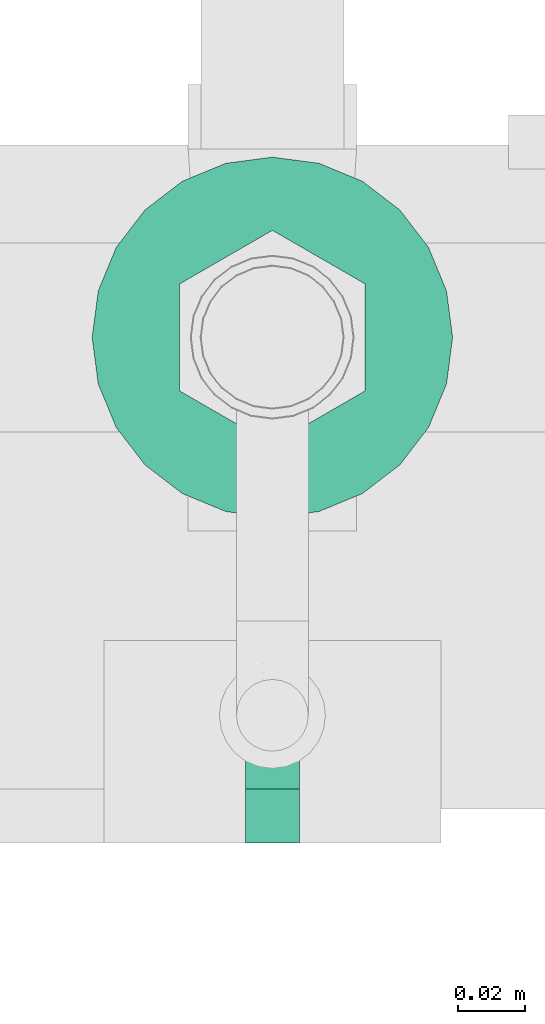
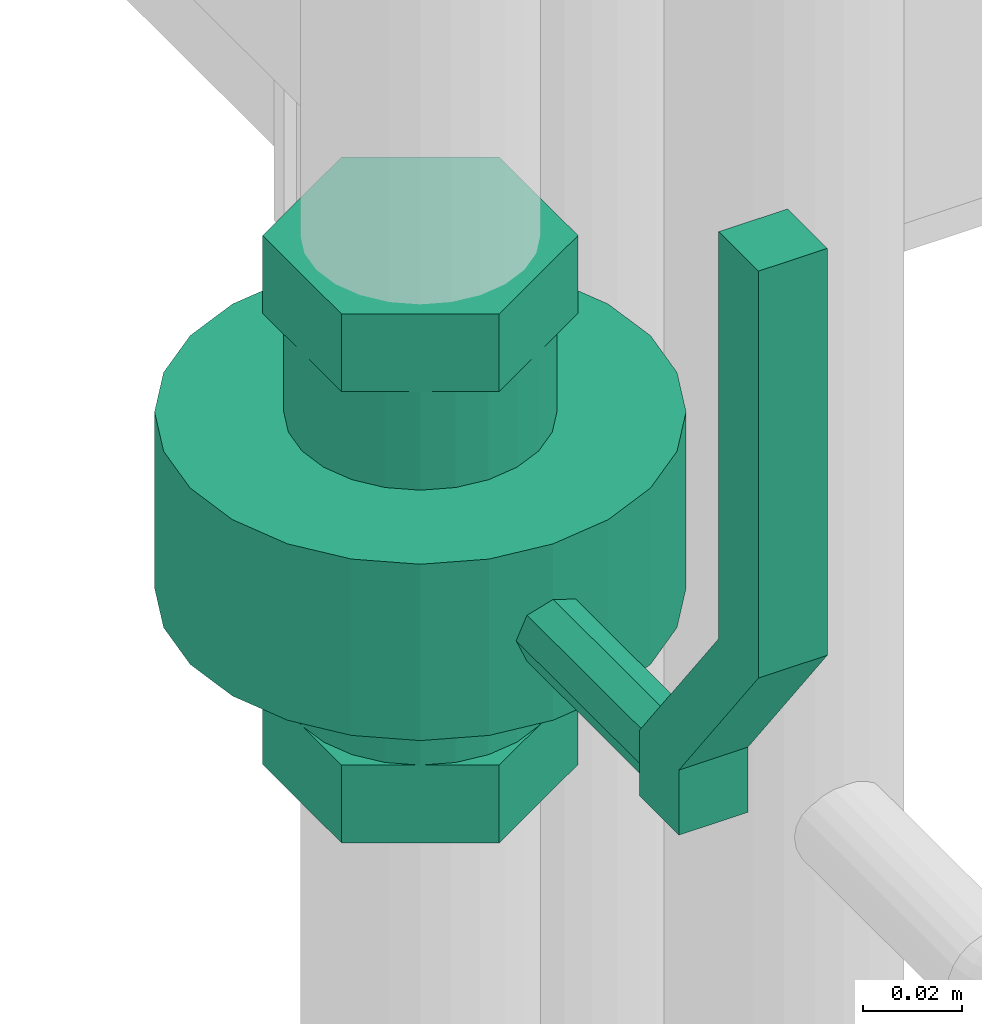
# One storey, part 255 of 374: 1 flow controller.
"""IFC2X3 building model written with IfcOpenShell, lengths in metres."""

from ifc_helpers import new_model, si_unit, direction, origin, place, context, subcontext, project, spatial, open_shell, surface_model, source, transform, mapped, element, save


model = new_model("IFC2X3")

# Units and contexts
model_context = context("Model", 3, precision=1e-05, world=origin(), true_north=direction((-0.4480736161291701, 0.8939966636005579)))
body_context = subcontext(model_context, "Body", "Model", "MODEL_VIEW")
ifc_project = project(units=[si_unit("LENGTHUNIT", "METRE"), si_unit("AREAUNIT", "SQUARE_METRE"), si_unit("VOLUMEUNIT", "CUBIC_METRE"), si_unit("PLANEANGLEUNIT", "RADIAN"), si_unit("THERMODYNAMICTEMPERATUREUNIT", "KELVIN"), si_unit("MASSUNIT", "GRAM", prefix="KILO"), si_unit("TIMEUNIT", "SECOND")], contexts=[model_context])

# Site, building, storey
site_placement = place(None, origin())
site = spatial("IfcSite", under=ifc_project, at=site_placement, Name="Site 1", CompositionType="ELEMENT")
building_placement = place(site_placement, origin())
building = spatial("IfcBuilding", under=site, at=building_placement, Name="Undefined", CompositionType="ELEMENT")
storey_placement = place(building_placement, origin())
storey = spatial("IfcBuildingStorey", under=building, at=storey_placement, Name="Rez de chauss\x8ee", CompositionType="ELEMENT", Elevation=0.0)

# Flow controller
shared_shape = source(origin(), body_context, "Body", "SurfaceModel", [
    surface_model("IfcFaceBasedSurfaceModel", [(0.0, 0.0, 0.0), (0.016000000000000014, 0.0, 0.0), (0.016000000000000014, 0.015999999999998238, 0.0), (0.0, 0.015999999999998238, 0.0), (0.016000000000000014, 0.0, 0.016000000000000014), (0.016000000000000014, 0.015999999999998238, 0.016000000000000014), (0.0, 0.0, 0.016000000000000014), (0.0, 0.015999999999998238, 0.016000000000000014), (-0.04200000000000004, 0.0, 0.04800000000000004), (-0.04200000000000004, 0.015999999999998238, 0.04800000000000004), (-0.14200000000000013, 0.0, 0.04800000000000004), (-0.14200000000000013, 0.015999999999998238, 0.04800000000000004), (-0.14200000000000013, 0.0, 0.03200000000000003), (-0.14200000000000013, 0.015999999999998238, 0.03200000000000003), (-0.04200000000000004, 0.0, 0.03200000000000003), (-0.04200000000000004, 0.015999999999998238, 0.03200000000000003), (0.07299999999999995, 0.03549999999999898, -0.11787713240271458), (0.07299999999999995, 0.03549999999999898, -0.08612286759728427), (0.05390000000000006, 0.03549999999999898, -0.08612286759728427), (0.05390000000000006, 0.03549999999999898, -0.11787713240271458), (0.07299999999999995, 0.008000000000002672, -0.13375426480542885), (0.05390000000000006, 0.008000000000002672, -0.13375426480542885), (0.07299999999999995, -0.01950000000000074, -0.11787713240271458), (0.05390000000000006, -0.01950000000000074, -0.11787713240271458), (0.07299999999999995, -0.01950000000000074, -0.08612286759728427), (0.05390000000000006, -0.01950000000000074, -0.08612286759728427), (0.07299999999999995, 0.008000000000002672, -0.07024573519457), (0.05390000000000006, 0.008000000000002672, -0.07024573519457), (0.05390000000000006, -0.01950000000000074, -0.10200000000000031), (0.05390000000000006, -0.01856296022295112, -0.09488247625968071), (0.02966666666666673, -0.01856296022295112, -0.09488247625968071), (0.02966666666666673, -0.01950000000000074, -0.10200000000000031), (0.05390000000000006, -0.01581569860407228, -0.08825000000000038), (0.02966666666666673, -0.01581569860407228, -0.08825000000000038), (0.05390000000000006, -0.011445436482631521, -0.08255456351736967), (0.02966666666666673, -0.011445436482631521, -0.08255456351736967), (0.05390000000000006, -0.005749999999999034, -0.07818430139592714), (0.02966666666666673, -0.005749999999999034, -0.07818430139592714), (0.05390000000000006, 0.0008824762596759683, -0.07543703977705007), (0.02966666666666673, 0.0008824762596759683, -0.07543703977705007), (0.05390000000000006, 0.008000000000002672, -0.07449999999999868), (0.02966666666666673, 0.008000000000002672, -0.07449999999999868), (0.05390000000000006, 0.01511752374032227, -0.07543703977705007), (0.02966666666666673, 0.01511752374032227, -0.07543703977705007), (0.05390000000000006, 0.021750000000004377, -0.07818430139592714), (0.02966666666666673, 0.021750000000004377, -0.07818430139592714), (0.05390000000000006, 0.02744543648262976, -0.08255456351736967), (0.02966666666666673, 0.02744543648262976, -0.08255456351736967), (0.05390000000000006, 0.03181569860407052, -0.08825000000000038), (0.02966666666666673, 0.03181569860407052, -0.08825000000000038), (0.05390000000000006, 0.03456296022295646, -0.09488247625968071), (0.02966666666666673, 0.03456296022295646, -0.09488247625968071), (0.05390000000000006, 0.03549999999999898, -0.10200000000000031), (0.02966666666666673, 0.03549999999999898, -0.10200000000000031), (0.05390000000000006, 0.03456296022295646, -0.10911752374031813), (0.02966666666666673, 0.03456296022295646, -0.10911752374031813), (0.05390000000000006, 0.03181569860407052, -0.11575000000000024), (0.02966666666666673, 0.03181569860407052, -0.11575000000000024), (0.05390000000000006, 0.02744543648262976, -0.12144543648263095), (0.02966666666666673, 0.02744543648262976, -0.12144543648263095), (0.05390000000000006, 0.021750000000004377, -0.1258156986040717), (0.02966666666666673, 0.021750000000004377, -0.1258156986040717), (0.05390000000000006, 0.01511752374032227, -0.12856296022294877), (0.02966666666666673, 0.01511752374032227, -0.12856296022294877), (0.05390000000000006, 0.008000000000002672, -0.12950000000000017), (0.02966666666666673, 0.008000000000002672, -0.12950000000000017), (0.05390000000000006, 0.0008824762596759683, -0.12856296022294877), (0.02966666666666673, 0.0008824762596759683, -0.12856296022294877), (0.05390000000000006, -0.005749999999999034, -0.1258156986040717), (0.02966666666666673, -0.005749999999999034, -0.1258156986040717), (0.05390000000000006, -0.011445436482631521, -0.12144543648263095), (0.02966666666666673, -0.011445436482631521, -0.12144543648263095), (0.05390000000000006, -0.01581569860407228, -0.11575000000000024), (0.02966666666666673, -0.01581569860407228, -0.11575000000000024), (0.05390000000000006, -0.01856296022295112, -0.10911752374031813), (0.02966666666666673, -0.01856296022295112, -0.10911752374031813), (0.02966666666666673, -0.04549999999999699, -0.10200000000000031), (0.02966666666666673, -0.04367703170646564, -0.08815318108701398), (-0.013666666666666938, -0.04367703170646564, -0.08815318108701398), (-0.013666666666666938, -0.04549999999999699, -0.10200000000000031), (0.02966666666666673, -0.03833235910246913, -0.0752499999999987), (-0.013666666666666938, -0.03833235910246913, -0.0752499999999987), (0.02966666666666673, -0.02983021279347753, -0.06416978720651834), (-0.013666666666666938, -0.02983021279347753, -0.06416978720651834), (0.02966666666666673, -0.018749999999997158, -0.05566764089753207), (-0.013666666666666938, -0.018749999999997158, -0.05566764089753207), (0.02966666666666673, -0.005846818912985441, -0.050322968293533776), (-0.013666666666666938, -0.005846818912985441, -0.050322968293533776), (0.02966666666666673, 0.008000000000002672, -0.04849999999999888), (-0.013666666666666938, 0.008000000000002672, -0.04849999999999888), (0.02966666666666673, 0.02184681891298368, -0.050322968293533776), (-0.013666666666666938, 0.02184681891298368, -0.050322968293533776), (0.02966666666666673, 0.0347500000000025, -0.05566764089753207), (-0.013666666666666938, 0.0347500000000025, -0.05566764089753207), (0.02966666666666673, 0.04583021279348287, -0.06416978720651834), (-0.013666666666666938, 0.04583021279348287, -0.06416978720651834), (0.02966666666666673, 0.054332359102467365, -0.0752499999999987), (-0.013666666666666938, 0.054332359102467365, -0.0752499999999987), (0.02966666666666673, 0.05967703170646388, -0.08815318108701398), (-0.013666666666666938, 0.05967703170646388, -0.08815318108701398), (0.02966666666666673, 0.06150000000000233, -0.10200000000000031), (-0.013666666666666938, 0.06150000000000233, -0.10200000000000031), (0.02966666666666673, 0.05967703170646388, -0.11584681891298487), (-0.013666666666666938, 0.05967703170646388, -0.11584681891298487), (0.02966666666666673, 0.054332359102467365, -0.12875000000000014), (-0.013666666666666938, 0.054332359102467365, -0.12875000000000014), (0.02966666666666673, 0.04583021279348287, -0.1398302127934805), (-0.013666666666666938, 0.04583021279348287, -0.1398302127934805), (0.02966666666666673, 0.0347500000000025, -0.14833235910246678), (-0.013666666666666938, 0.0347500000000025, -0.14833235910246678), (0.02966666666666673, 0.02184681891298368, -0.15367703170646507), (-0.013666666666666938, 0.02184681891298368, -0.15367703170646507), (0.02966666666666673, 0.008000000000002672, -0.15549999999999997), (-0.013666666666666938, 0.008000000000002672, -0.15549999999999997), (0.02966666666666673, -0.005846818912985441, -0.15367703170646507), (-0.013666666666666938, -0.005846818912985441, -0.15367703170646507), (0.02966666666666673, -0.018749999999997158, -0.14833235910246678), (-0.013666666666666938, -0.018749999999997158, -0.14833235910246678), (0.02966666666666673, -0.02983021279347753, -0.1398302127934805), (-0.013666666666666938, -0.02983021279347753, -0.1398302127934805), (0.02966666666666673, -0.03833235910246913, -0.12875000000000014), (-0.013666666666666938, -0.03833235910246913, -0.12875000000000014), (0.02966666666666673, -0.04367703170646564, -0.11584681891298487), (-0.013666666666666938, -0.04367703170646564, -0.11584681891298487), (0.02966666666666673, 0.008000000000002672, -0.10200000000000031), (-0.013666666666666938, 0.008000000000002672, -0.10200000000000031), (-0.013666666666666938, -0.01950000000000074, -0.10200000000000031), (-0.013666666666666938, -0.01856296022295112, -0.09488247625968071), (-0.03790000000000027, -0.01856296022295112, -0.09488247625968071), (-0.03790000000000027, -0.01950000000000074, -0.10200000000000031), (-0.013666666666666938, -0.01581569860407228, -0.08825000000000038), (-0.03790000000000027, -0.01581569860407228, -0.08825000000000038), (-0.013666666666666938, -0.011445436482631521, -0.08255456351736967), (-0.03790000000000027, -0.011445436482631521, -0.08255456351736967), (-0.013666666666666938, -0.005749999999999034, -0.07818430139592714), (-0.03790000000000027, -0.005749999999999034, -0.07818430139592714), (-0.013666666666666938, 0.0008824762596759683, -0.07543703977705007), (-0.03790000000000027, 0.0008824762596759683, -0.07543703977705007), (-0.013666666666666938, 0.008000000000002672, -0.07449999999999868), (-0.03790000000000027, 0.008000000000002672, -0.07449999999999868), (-0.013666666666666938, 0.01511752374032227, -0.07543703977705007), (-0.03790000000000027, 0.01511752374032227, -0.07543703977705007), (-0.013666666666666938, 0.021750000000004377, -0.07818430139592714), (-0.03790000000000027, 0.021750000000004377, -0.07818430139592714), (-0.013666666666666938, 0.02744543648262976, -0.08255456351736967), (-0.03790000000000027, 0.02744543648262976, -0.08255456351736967), (-0.013666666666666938, 0.03181569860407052, -0.08825000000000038), (-0.03790000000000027, 0.03181569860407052, -0.08825000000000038), (-0.013666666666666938, 0.03456296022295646, -0.09488247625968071), (-0.03790000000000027, 0.03456296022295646, -0.09488247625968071), (-0.013666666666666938, 0.03549999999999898, -0.10200000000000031), (-0.03790000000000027, 0.03549999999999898, -0.10200000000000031), (-0.013666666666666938, 0.03456296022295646, -0.10911752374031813), (-0.03790000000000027, 0.03456296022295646, -0.10911752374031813), (-0.013666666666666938, 0.03181569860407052, -0.11575000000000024), (-0.03790000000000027, 0.03181569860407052, -0.11575000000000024), (-0.013666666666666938, 0.02744543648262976, -0.12144543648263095), (-0.03790000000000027, 0.02744543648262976, -0.12144543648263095), (-0.013666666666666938, 0.021750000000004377, -0.1258156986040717), (-0.03790000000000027, 0.021750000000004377, -0.1258156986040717), (-0.013666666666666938, 0.01511752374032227, -0.12856296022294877), (-0.03790000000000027, 0.01511752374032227, -0.12856296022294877), (-0.013666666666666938, 0.008000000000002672, -0.12950000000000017), (-0.03790000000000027, 0.008000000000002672, -0.12950000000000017), (-0.013666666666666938, 0.0008824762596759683, -0.12856296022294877), (-0.03790000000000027, 0.0008824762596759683, -0.12856296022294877), (-0.013666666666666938, -0.005749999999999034, -0.1258156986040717), (-0.03790000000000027, -0.005749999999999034, -0.1258156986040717), (-0.013666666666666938, -0.011445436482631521, -0.12144543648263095), (-0.03790000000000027, -0.011445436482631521, -0.12144543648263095), (-0.013666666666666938, -0.01581569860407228, -0.11575000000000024), (-0.03790000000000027, -0.01581569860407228, -0.11575000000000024), (-0.013666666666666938, -0.01856296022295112, -0.10911752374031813), (-0.03790000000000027, -0.01856296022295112, -0.10911752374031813), (-0.03790000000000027, 0.03549999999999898, -0.11787713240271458), (-0.03790000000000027, 0.03549999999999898, -0.08612286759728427), (-0.05700000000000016, 0.03549999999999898, -0.08612286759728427), (-0.05700000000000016, 0.03549999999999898, -0.11787713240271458), (-0.03790000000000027, 0.008000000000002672, -0.13375426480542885), (-0.05700000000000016, 0.008000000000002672, -0.13375426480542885), (-0.03790000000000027, -0.01950000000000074, -0.11787713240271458), (-0.05700000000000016, -0.01950000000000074, -0.11787713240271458), (-0.03790000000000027, -0.01950000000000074, -0.08612286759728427), (-0.05700000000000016, -0.01950000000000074, -0.08612286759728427), (-0.03790000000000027, 0.008000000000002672, -0.07024573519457), (-0.05700000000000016, 0.008000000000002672, -0.07024573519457), (0.0, 0.008000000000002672, -0.10200000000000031), (0.002343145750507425, 0.002343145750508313, -0.10200000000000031), (0.002343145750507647, 0.002343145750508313, 0.0), (0.0, 0.008, 0.0), (0.008000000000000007, 0.0, -0.10200000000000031), (0.008000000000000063, 0.0, 0.0), (0.013656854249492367, 0.002343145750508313, -0.10200000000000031), (0.013656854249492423, 0.002343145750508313, 0.0), (0.015999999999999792, 0.008000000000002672, -0.10200000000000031), (0.016000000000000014, 0.008000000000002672, 0.0), (0.013656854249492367, 0.01365685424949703, -0.10200000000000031), (0.013656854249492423, 0.013656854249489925, 0.0), (0.008000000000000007, 0.015999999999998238, -0.10200000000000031), (0.008000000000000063, 0.015999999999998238, 0.0), (0.002343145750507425, 0.01365685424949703, -0.10200000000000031), (0.002343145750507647, 0.013656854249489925, 0.0)], [open_shell([[[0, 1, 2, 3]], [[1, 4, 5, 2]], [[4, 6, 7, 5]], [[6, 8, 9, 7]], [[8, 10, 11, 9]], [[10, 12, 13, 11]], [[12, 14, 15, 13]], [[14, 0, 3, 15]], [[3, 7, 2]], [[7, 3, 9]], [[15, 9, 3]], [[9, 15, 11]], [[13, 11, 15]], [[5, 2, 7]], [[1, 6, 0]], [[8, 0, 6]], [[0, 8, 14]], [[10, 14, 8]], [[14, 10, 12]], [[6, 1, 4]], [[16, 17, 18, 19]], [[20, 16, 19, 21]], [[22, 20, 21, 23]], [[24, 22, 23, 25]], [[26, 24, 25, 27]], [[17, 26, 27, 18]], [[17, 16, 20]], [[17, 20, 22]], [[17, 22, 24]], [[17, 24, 26]], [[18, 21, 19]], [[18, 23, 21]], [[18, 25, 23]], [[18, 27, 25]], [[28, 29, 30, 31]], [[29, 32, 33, 30]], [[32, 34, 35, 33]], [[34, 36, 37, 35]], [[36, 38, 39, 37]], [[38, 40, 41, 39]], [[40, 42, 43, 41]], [[42, 44, 45, 43]], [[44, 46, 47, 45]], [[46, 48, 49, 47]], [[48, 50, 51, 49]], [[50, 52, 53, 51]], [[52, 54, 55, 53]], [[54, 56, 57, 55]], [[56, 58, 59, 57]], [[58, 60, 61, 59]], [[60, 62, 63, 61]], [[62, 64, 65, 63]], [[64, 66, 67, 65]], [[66, 68, 69, 67]], [[68, 70, 71, 69]], [[70, 72, 73, 71]], [[72, 74, 75, 73]], [[74, 28, 31, 75]], [[76, 77, 78, 79]], [[77, 80, 81, 78]], [[80, 82, 83, 81]], [[82, 84, 85, 83]], [[84, 86, 87, 85]], [[86, 88, 89, 87]], [[88, 90, 91, 89]], [[90, 92, 93, 91]], [[92, 94, 95, 93]], [[94, 96, 97, 95]], [[96, 98, 99, 97]], [[98, 100, 101, 99]], [[100, 102, 103, 101]], [[102, 104, 105, 103]], [[104, 106, 107, 105]], [[106, 108, 109, 107]], [[108, 110, 111, 109]], [[110, 112, 113, 111]], [[112, 114, 115, 113]], [[114, 116, 117, 115]], [[116, 118, 119, 117]], [[118, 120, 121, 119]], [[120, 122, 123, 121]], [[122, 76, 79, 123]], [[124, 77, 76]], [[124, 80, 77]], [[124, 82, 80]], [[124, 84, 82]], [[124, 86, 84]], [[124, 88, 86]], [[124, 90, 88]], [[124, 92, 90]], [[124, 94, 92]], [[124, 96, 94]], [[124, 98, 96]], [[124, 100, 98]], [[124, 102, 100]], [[124, 104, 102]], [[124, 106, 104]], [[124, 108, 106]], [[124, 110, 108]], [[124, 112, 110]], [[124, 114, 112]], [[124, 116, 114]], [[124, 118, 116]], [[124, 120, 118]], [[124, 122, 120]], [[124, 76, 122]], [[125, 123, 79]], [[125, 121, 123]], [[125, 119, 121]], [[125, 117, 119]], [[125, 115, 117]], [[125, 113, 115]], [[125, 111, 113]], [[125, 109, 111]], [[125, 107, 109]], [[125, 105, 107]], [[125, 103, 105]], [[125, 101, 103]], [[125, 99, 101]], [[125, 97, 99]], [[125, 95, 97]], [[125, 93, 95]], [[125, 91, 93]], [[125, 89, 91]], [[125, 87, 89]], [[125, 85, 87]], [[125, 83, 85]], [[125, 81, 83]], [[125, 78, 81]], [[125, 79, 78]], [[126, 127, 128, 129]], [[127, 130, 131, 128]], [[130, 132, 133, 131]], [[132, 134, 135, 133]], [[134, 136, 137, 135]], [[136, 138, 139, 137]], [[138, 140, 141, 139]], [[140, 142, 143, 141]], [[142, 144, 145, 143]], [[144, 146, 147, 145]], [[146, 148, 149, 147]], [[148, 150, 151, 149]], [[150, 152, 153, 151]], [[152, 154, 155, 153]], [[154, 156, 157, 155]], [[156, 158, 159, 157]], [[158, 160, 161, 159]], [[160, 162, 163, 161]], [[162, 164, 165, 163]], [[164, 166, 167, 165]], [[166, 168, 169, 167]], [[168, 170, 171, 169]], [[170, 172, 173, 171]], [[172, 126, 129, 173]], [[174, 175, 176, 177]], [[178, 174, 177, 179]], [[180, 178, 179, 181]], [[182, 180, 181, 183]], [[184, 182, 183, 185]], [[175, 184, 185, 176]], [[175, 174, 178]], [[175, 178, 180]], [[175, 180, 182]], [[175, 182, 184]], [[176, 179, 177]], [[176, 181, 179]], [[176, 183, 181]], [[176, 185, 183]], [[186, 187, 188, 189]], [[187, 190, 191, 188]], [[190, 192, 193, 191]], [[192, 194, 195, 193]], [[194, 196, 197, 195]], [[196, 198, 199, 197]], [[198, 200, 201, 199]], [[200, 186, 189, 201]]])]),
])
flow_controller_placement = place(storey_placement, origin())
element("IfcFlowController", 1, at=flow_controller_placement, inside=storey, Name="Robinet à boisseau sphérique", ObjectType="Robinet à boisseau sphérique", context=body_context, shape_type="MappedRepresentation", body=[
    mapped(shared_shape, transform((52.4495620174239, 10.616037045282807, 1.7299890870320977), x_axis=(0.0, 0.0, -1.0), y_axis=(1.0, 0.0, 0.0), z_axis=(0.0, -1.0, 0.0))),
])

save(model, "model.ifc")
